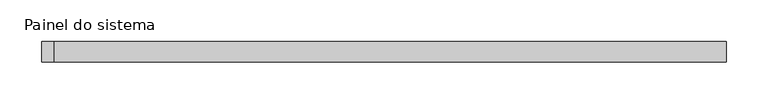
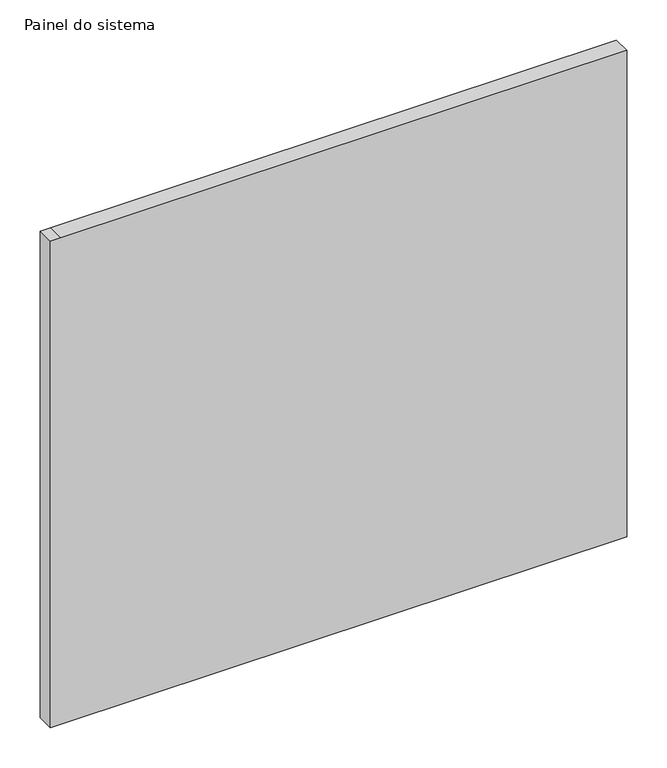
"""IFC4 building model written with IfcOpenShell, lengths in millimetres: plate geometry, Painel do sistema : Envidraçado."""

import ifcopenshell
import ifcopenshell.guid

model = None  # the IFC model being written
_history = None  # IfcOwnerHistory: only IFC2X3 demands one
_inside = {}  # id of a spatial element -> (the spatial element, [elements in it])
_under = {}  # id of a project, library or spatial element -> (it, [spatial elements below it])
_declared = {}  # id of a project -> (the project, [libraries it declares])
_typed = {}  # id of a type object -> (the type object, [elements of that type])
_made_of = {}  # id of a material, layer set ... -> (it, [elements and type objects made of it])


def new_model(schema):
    """Start an empty IFC model of exactly this schema.

    Asked for "IFC4X3", IfcOpenShell would pick the latest addendum, in which some entities
    have other attributes; the version numbers below select the first issue.
    IFC2X3 requires an IfcOwnerHistory on every rooted entity: one is made here for all.
    """
    global model, _history
    if schema == "IFC4X3":
        model = ifcopenshell.file(schema_version=(4, 3, 0, 0))
    else:
        model = ifcopenshell.file(schema=schema)
    _inside.clear()
    _under.clear()
    _declared.clear()
    _typed.clear()
    _made_of.clear()
    _history = None
    if model.schema == "IFC2X3":
        org = make("IfcOrganization", Name="unknown")
        user = make(
            "IfcPersonAndOrganization",
            ThePerson=make("IfcPerson", FamilyName="unknown"),
            TheOrganization=org,
        )
        app = make(
            "IfcApplication",
            ApplicationDeveloper=org,
            Version="unknown",
            ApplicationFullName="unknown",
            ApplicationIdentifier="unknown",
        )
        _history = make(
            "IfcOwnerHistory",
            OwningUser=user,
            OwningApplication=app,
            ChangeAction="ADDED",
            CreationDate=0,
        )
    return model


def make(cls, **values):
    """One entity of the class cls with the attributes given. An attribute that is None is left unset."""
    return model.create_entity(
        cls, **{name: value for name, value in values.items() if value is not None}
    )


def rooted(cls, **values):
    """An entity with a GlobalId (a new one), such as an element, a storey or a relation."""
    return make(cls, GlobalId=ifcopenshell.guid.new(), OwnerHistory=_history, **values)


def si_unit(unit_type, name, prefix=None):
    """IfcSIUnit, for example si_unit("LENGTHUNIT", "METRE", prefix="MILLI")."""
    return make("IfcSIUnit", UnitType=unit_type, Prefix=prefix, Name=name)


def assignment(units):
    """IfcUnitAssignment: the units of a project."""
    return None if units is None else make("IfcUnitAssignment", Units=units)


def point(xyz):
    """IfcCartesianPoint."""
    return None if xyz is None else make("IfcCartesianPoint", Coordinates=xyz)


def direction(xyz):
    """IfcDirection."""
    return None if xyz is None else make("IfcDirection", DirectionRatios=xyz)


def frame(location, z_axis=None, x_axis=None):
    """IfcAxis2Placement3D, a coordinate frame: its origin and axes. An axis left out is left unset."""
    return make(
        "IfcAxis2Placement3D",
        Location=point(location),
        Axis=direction(z_axis),
        RefDirection=direction(x_axis),
    )


def origin():
    """The frame at (0, 0, 0) with its axes left unset."""
    return frame((0.0, 0.0, 0.0))


def place(relative_to, where):
    """IfcLocalPlacement: puts the frame where relative to a parent placement (None: the world)."""
    return make(
        "IfcLocalPlacement", PlacementRelTo=relative_to, RelativePlacement=where
    )


def context(
    kind, dimensions, precision=None, world=None, true_north=None, identifier=None
):
    """IfcGeometricRepresentationContext, for example the 3D "Model" context."""
    return make(
        "IfcGeometricRepresentationContext",
        ContextIdentifier=identifier,
        ContextType=kind,
        CoordinateSpaceDimension=dimensions,
        Precision=precision,
        WorldCoordinateSystem=world,
        TrueNorth=true_north,
    )


def project(units=None, contexts=None):
    """IfcProject with its units and contexts."""
    return rooted(
        "IfcProject",
        Name="project",
        RepresentationContexts=contexts,
        UnitsInContext=assignment(units),
    )


def spatial(cls, under=None, at=None, **own):
    """A site, building, storey or space (cls), placed at a placement, below another one or the project."""
    s = rooted(cls, ObjectPlacement=at, **own)
    if under is not None:
        _under.setdefault(under.id(), (under, []))[1].append(s)
    return s


def polyline(points):
    """IfcPolyline through the points."""
    return make("IfcPolyline", Points=[point(p) for p in points])


def outline(outer, holes=None, kind="AREA"):
    """IfcArbitraryClosedProfileDef: a profile drawn as a closed curve; with holes, ...WithVoids."""
    if holes is None:
        return make("IfcArbitraryClosedProfileDef", ProfileType=kind, OuterCurve=outer)
    return make(
        "IfcArbitraryProfileDefWithVoids",
        ProfileType=kind,
        OuterCurve=outer,
        InnerCurves=holes,
    )


def extrude(swept, where, along, depth):
    """IfcExtrudedAreaSolid: the profile swept, set in the frame where, extruded along a direction by depth."""
    return make(
        "IfcExtrudedAreaSolid",
        SweptArea=swept,
        Position=where,
        ExtrudedDirection=direction(along),
        Depth=depth,
    )


def shape(context_of_items, identifier, shape_type, items):
    """IfcShapeRepresentation: the items that make up one representation, for example the "Body"."""
    return make(
        "IfcShapeRepresentation",
        ContextOfItems=context_of_items,
        RepresentationIdentifier=identifier,
        RepresentationType=shape_type,
        Items=items,
    )


def source(mapping_origin, context_of_items, identifier, shape_type, items):
    """IfcRepresentationMap: a shape defined once, which mapped items show again and again."""
    return make(
        "IfcRepresentationMap",
        MappingOrigin=mapping_origin,
        MappedRepresentation=shape(context_of_items, identifier, shape_type, items),
    )


def transform(
    local_origin,
    x_axis=None,
    y_axis=None,
    z_axis=None,
    scale=None,
    scale2=None,
    scale3=None,
    uniform=True,
):
    """IfcCartesianTransformationOperator3D, or its non-uniform kind. x_axis, y_axis, z_axis: its Axis1, 2, 3."""
    if uniform:
        return make(
            "IfcCartesianTransformationOperator3D",
            Axis1=direction(x_axis),
            Axis2=direction(y_axis),
            LocalOrigin=point(local_origin),
            Scale=scale,
            Axis3=direction(z_axis),
        )
    return make(
        "IfcCartesianTransformationOperator3DnonUniform",
        Axis1=direction(x_axis),
        Axis2=direction(y_axis),
        LocalOrigin=point(local_origin),
        Scale=scale,
        Axis3=direction(z_axis),
        Scale2=scale2,
        Scale3=scale3,
    )


def mapped(mapping_source, mapping_target):
    """IfcMappedItem: shows the shape of a source again, moved by a transform."""
    return make(
        "IfcMappedItem", MappingSource=mapping_source, MappingTarget=mapping_target
    )


def made_of(thing, what):
    """Note that an element or type object is made of a material, layer set ...; save() writes the relation."""
    if what is not None:
        _made_of.setdefault(what.id(), (what, []))[1].append(thing)
    return thing


def element(
    cls,
    number,
    at=None,
    inside=None,
    cuts=None,
    type_object=None,
    material=None,
    context=None,
    identifier="Body",
    shape_type=None,
    held_by="IfcProductDefinitionShape",
    body=None,
    shapes=None,
    **own,
):
    """One element of the class cls, such as IfcWall. Its Tag is "e" and its number.

    at: its placement. inside: the storey or other place that contains it. cuts: it is an
    opening in that element (IfcRelVoidsElement). A single representation is given by context,
    identifier, shape_type and body (its items); several are given by shapes. held_by: the class
    of the entity that holds the representations. save() writes the other relations.
    """
    e = rooted(cls, Tag="e%d" % number, ObjectPlacement=at, **own)
    if body is not None:
        shapes = [shape(context, identifier, shape_type, body)]
    if shapes is not None:
        e.Representation = make(held_by, Representations=shapes)
    if inside is not None:
        _inside.setdefault(inside.id(), (inside, []))[1].append(e)
    if cuts is not None:
        rooted(
            "IfcRelVoidsElement", RelatingBuildingElement=cuts, RelatedOpeningElement=e
        )
    if type_object is not None:
        _typed.setdefault(type_object.id(), (type_object, []))[1].append(e)
    return made_of(e, material)


def aggregate(whole, parts):
    """IfcRelAggregates: a whole, such as a stair, and the parts it consists of."""
    return rooted("IfcRelAggregates", RelatingObject=whole, RelatedObjects=parts)


def save(model, path):
    """Write the relations noted so far, then the file.

    IfcRelAggregates (storeys below a building ...), IfcRelContainedInSpatialStructure (elements
    in a storey), IfcRelDefinesByType, IfcRelAssociatesMaterial and IfcRelDeclares: one each for
    every whole, place, type object, material and project.
    """
    for whole, parts in _under.values():
        aggregate(whole, parts)
    for where, things in _inside.values():
        rooted(
            "IfcRelContainedInSpatialStructure",
            RelatedElements=things,
            RelatingStructure=where,
        )
    for kind, things in _typed.values():
        rooted("IfcRelDefinesByType", RelatedObjects=things, RelatingType=kind)
    for what, things in _made_of.values():
        rooted("IfcRelAssociatesMaterial", RelatedObjects=things, RelatingMaterial=what)
    for by, libraries in _declared.values():
        rooted("IfcRelDeclares", RelatingContext=by, RelatedDefinitions=libraries)
    model.write(path)


def painel_do_sistema_bdd7733e(model_context):
    return source(origin(), model_context, "Body", "SweptSolid", [
        extrude(outline(polyline([(0.0, -411.6666667), (0.0, -396.6666667), (0.0, 411.6666667), (735.0, 411.6666667), (735.0, -396.6666667), (735.0, -411.6666667), (0.0, -411.6666667)])), frame((0.0, 24.5, 0.0), z_axis=(0.0, 1.0, 0.0), x_axis=(0.0, 0.0, 1.0)), (0.0, 0.0, 1.0), 25.0),
    ])


if __name__ == "__main__":
    model = new_model("IFC4")
    model_context = context("Model", 3, world=origin())
    ifc_project = project(units=[si_unit("LENGTHUNIT", "METRE", prefix="MILLI")], contexts=[model_context])
    site = spatial("IfcSite", under=ifc_project)
    building = spatial("IfcBuilding", under=site)
    placement = place(None, origin())
    painel_do_sistema_shape = painel_do_sistema_bdd7733e(model_context)
    element("IfcPlate", 1, ObjectType="Painel do sistema : Envidraçado", at=placement, inside=building, context=model_context, shape_type="MappedRepresentation", body=[
        mapped(painel_do_sistema_shape, transform((0.0, 0.0, 0.0), x_axis=(1.0, 0.0, 0.0), y_axis=(0.0, 1.0, 0.0), z_axis=(0.0, 0.0, 1.0))),
    ])
    save(model, "model.ifc")
